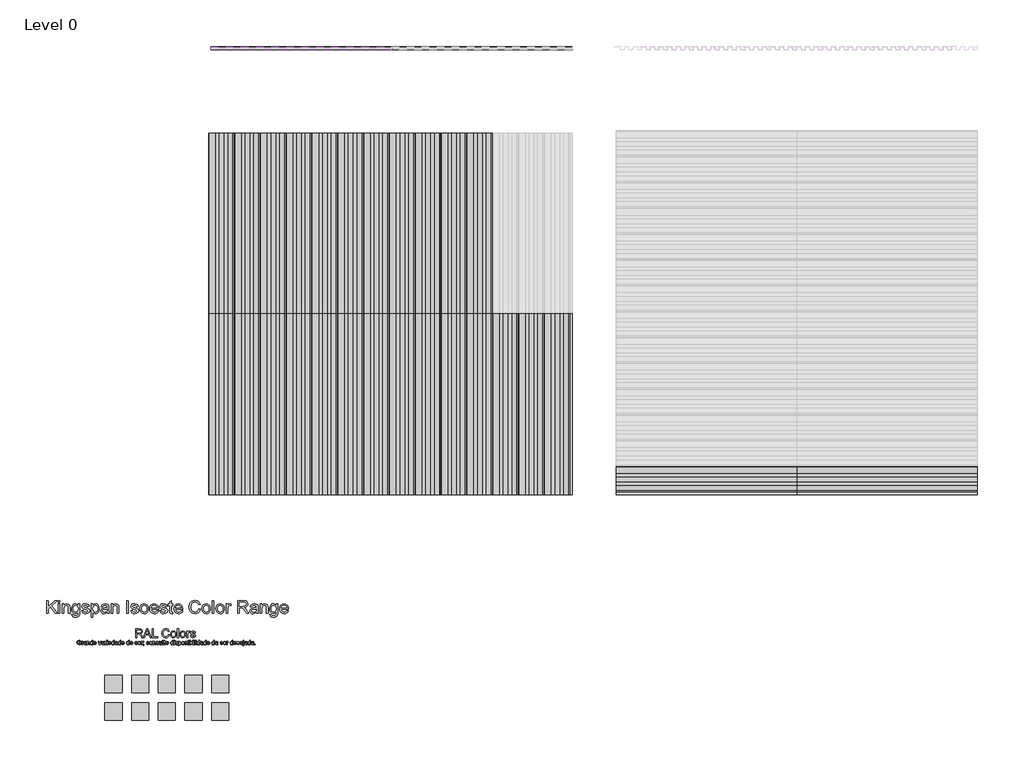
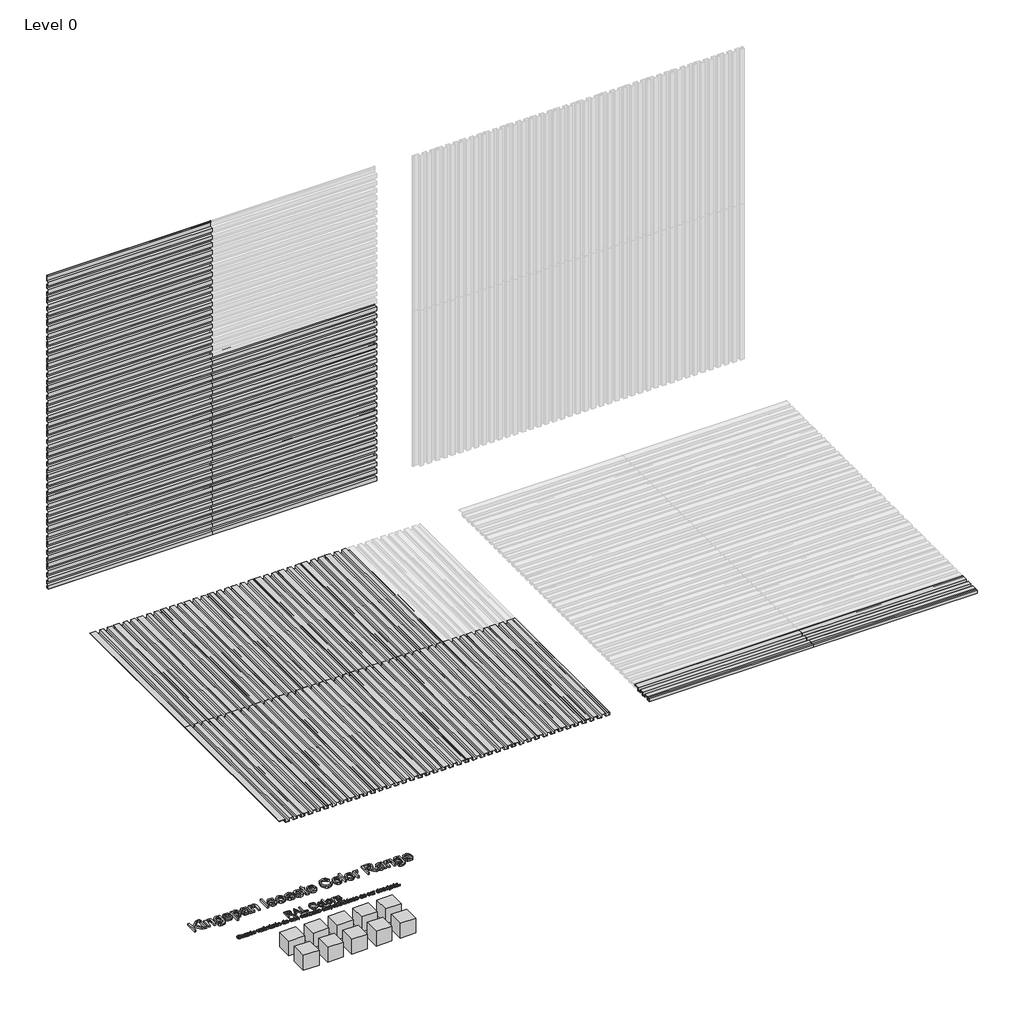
# One storey, part 1 of 2: 60 proxies.
"""IFC4 building model written with IfcOpenShell, lengths in millimetres."""

from ifc_helpers import new_model, si_unit, origin, place, context, project, spatial, transform, mapped, element, save
from components import proxy_32_ks_iso_colour_range_8220f766, proxy_32_ks_iso_colour_range_06d69407, ks_colour_sample_ks_colour_sample_0243efec, mx1_0_standard_panel_ns_afae810e, mx1_0_standard_panel_ns_dc5b759f

model = new_model("IFC4")

# Units and contexts
model_context = context("Model", 3, world=origin())
ifc_project = project(units=[si_unit("LENGTHUNIT", "METRE", prefix="MILLI")], contexts=[model_context])

# Site, building, storey
site = spatial("IfcSite", under=ifc_project)
building = spatial("IfcBuilding", under=site)
storey = spatial("IfcBuildingStorey", under=building, Name="Level 0", Elevation=0.0)

# Proxies
placement = place(None, origin())
proxy_32_ks_iso_colour_range_shape = proxy_32_ks_iso_colour_range_8220f766(model_context)
proxy_32_ks_iso_colour_range_2_shape = proxy_32_ks_iso_colour_range_06d69407(model_context)
element("IfcBuildingElementProxy", 1, Name="32-KS-ISO-Colour Range : Kingspan Isoeste Color Range", ObjectType="32-KS-ISO-Colour Range : Kingspan Isoeste Color Range", at=placement, inside=storey, context=model_context, shape_type="MappedRepresentation", body=[
    mapped(proxy_32_ks_iso_colour_range_shape, transform((-3929.8390717, -2223.0925896, 0.0), x_axis=(1.0, 0.0, 0.0), y_axis=(0.0, 1.0, 0.0), z_axis=(0.0, 0.0, 1.0))),
    mapped(proxy_32_ks_iso_colour_range_2_shape, transform((-3929.8390717, -2223.0925896, 0.0), x_axis=(1.0, 0.0, 0.0), y_axis=(0.0, 1.0, 0.0), z_axis=(0.0, 0.0, 1.0))),
])
ks_colour_sample_ks_colour_sample_shape = ks_colour_sample_ks_colour_sample_0243efec(model_context)
element("IfcBuildingElementProxy", 2, Name="KS_Colour Sample : KS_Colour Sample", ObjectType="KS_Colour Sample : KS_Colour Sample", at=placement, inside=storey, context=model_context, shape_type="MappedRepresentation", body=[
    mapped(ks_colour_sample_ks_colour_sample_shape, transform((-3309.8390717, -2663.0925896, 0.0), x_axis=(1.0, 0.0, 0.0), y_axis=(0.0, 1.0, 0.0), z_axis=(0.0, 0.0, 1.0))),
])
element("IfcBuildingElementProxy", 3, Name="KS_Colour Sample : KS_Colour Sample", ObjectType="KS_Colour Sample : KS_Colour Sample", at=placement, inside=storey, context=model_context, shape_type="MappedRepresentation", body=[
    mapped(ks_colour_sample_ks_colour_sample_shape, transform((-3309.8390717, -2343.0925896, 0.0), x_axis=(1.0, 0.0, 0.0), y_axis=(0.0, 1.0, 0.0), z_axis=(0.0, 0.0, 1.0))),
])
element("IfcBuildingElementProxy", 4, Name="KS_Colour Sample : KS_Colour Sample", ObjectType="KS_Colour Sample : KS_Colour Sample", at=placement, inside=storey, context=model_context, shape_type="MappedRepresentation", body=[
    mapped(ks_colour_sample_ks_colour_sample_shape, transform((-4549.8390717, -2663.0925896, 0.0), x_axis=(1.0, 0.0, 0.0), y_axis=(0.0, 1.0, 0.0), z_axis=(0.0, 0.0, 1.0))),
])
element("IfcBuildingElementProxy", 5, Name="KS_Colour Sample : KS_Colour Sample", ObjectType="KS_Colour Sample : KS_Colour Sample", at=placement, inside=storey, context=model_context, shape_type="MappedRepresentation", body=[
    mapped(ks_colour_sample_ks_colour_sample_shape, transform((-4239.8390717, -2663.0925896, 0.0), x_axis=(1.0, 0.0, 0.0), y_axis=(0.0, 1.0, 0.0), z_axis=(0.0, 0.0, 1.0))),
])
element("IfcBuildingElementProxy", 6, Name="KS_Colour Sample : KS_Colour Sample", ObjectType="KS_Colour Sample : KS_Colour Sample", at=placement, inside=storey, context=model_context, shape_type="MappedRepresentation", body=[
    mapped(ks_colour_sample_ks_colour_sample_shape, transform((-3619.8390717, -2663.0925896, 0.0), x_axis=(1.0, 0.0, 0.0), y_axis=(0.0, 1.0, 0.0), z_axis=(0.0, 0.0, 1.0))),
])
element("IfcBuildingElementProxy", 7, Name="KS_Colour Sample : KS_Colour Sample", ObjectType="KS_Colour Sample : KS_Colour Sample", at=placement, inside=storey, context=model_context, shape_type="MappedRepresentation", body=[
    mapped(ks_colour_sample_ks_colour_sample_shape, transform((-4549.8390717, -2343.0925896, 0.0), x_axis=(1.0, 0.0, 0.0), y_axis=(0.0, 1.0, 0.0), z_axis=(0.0, 0.0, 1.0))),
])
element("IfcBuildingElementProxy", 8, Name="KS_Colour Sample : KS_Colour Sample", ObjectType="KS_Colour Sample : KS_Colour Sample", at=placement, inside=storey, context=model_context, shape_type="MappedRepresentation", body=[
    mapped(ks_colour_sample_ks_colour_sample_shape, transform((-4239.8390717, -2343.0925896, 0.0), x_axis=(1.0, 0.0, 0.0), y_axis=(0.0, 1.0, 0.0), z_axis=(0.0, 0.0, 1.0))),
])
element("IfcBuildingElementProxy", 9, Name="KS_Colour Sample : KS_Colour Sample", ObjectType="KS_Colour Sample : KS_Colour Sample", at=placement, inside=storey, context=model_context, shape_type="MappedRepresentation", body=[
    mapped(ks_colour_sample_ks_colour_sample_shape, transform((-3619.8390717, -2343.0925896, 0.0), x_axis=(1.0, 0.0, 0.0), y_axis=(0.0, 1.0, 0.0), z_axis=(0.0, 0.0, 1.0))),
])
element("IfcBuildingElementProxy", 10, Name="KS_Colour Sample : KS_Colour Sample", ObjectType="KS_Colour Sample : KS_Colour Sample", at=placement, inside=storey, context=model_context, shape_type="MappedRepresentation", body=[
    mapped(ks_colour_sample_ks_colour_sample_shape, transform((-3929.8390717, -2343.0925896, 0.0), x_axis=(1.0, 0.0, 0.0), y_axis=(0.0, 1.0, 0.0), z_axis=(0.0, 0.0, 1.0))),
])
element("IfcBuildingElementProxy", 11, Name="KS_Colour Sample : KS_Colour Sample", ObjectType="KS_Colour Sample : KS_Colour Sample", at=placement, inside=storey, context=model_context, shape_type="MappedRepresentation", body=[
    mapped(ks_colour_sample_ks_colour_sample_shape, transform((-3929.8390717, -2663.0925896, 0.0), x_axis=(1.0, 0.0, 0.0), y_axis=(0.0, 1.0, 0.0), z_axis=(0.0, 0.0, 1.0))),
])
mx1_0_standard_panel_ns_shape = mx1_0_standard_panel_ns_afae810e(model_context)
element("IfcBuildingElementProxy", 12, Name="MX1.0 : Standard Panel_NS", ObjectType="MX1.0 : Standard Panel_NS", at=placement, inside=storey, context=model_context, shape_type="MappedRepresentation", body=[
    mapped(mx1_0_standard_panel_ns_shape, transform((-3417.7637295, 5063.0274074, 0.0), x_axis=(1.0, 0.0, 0.0), y_axis=(0.0, 0.0, 1.0), z_axis=(0.0, -1.0, 0.0))),
])
element("IfcBuildingElementProxy", 13, Name="MX1.0 : Standard Panel_NS", ObjectType="MX1.0 : Standard Panel_NS", at=placement, inside=storey, context=model_context, shape_type="MappedRepresentation", body=[
    mapped(mx1_0_standard_panel_ns_shape, transform((-3417.7637295, 5063.0274074, 2400.0), x_axis=(1.0, 0.0, 0.0), y_axis=(0.0, 0.0, 1.0), z_axis=(0.0, -1.0, 0.0))),
])
element("IfcBuildingElementProxy", 14, Name="MX1.0 : Standard Panel_NS", ObjectType="MX1.0 : Standard Panel_NS", at=placement, inside=storey, context=model_context, shape_type="MappedRepresentation", body=[
    mapped(mx1_0_standard_panel_ns_shape, transform((-1317.7637295, 5063.0274074, 0.0), x_axis=(1.0, 0.0, 0.0), y_axis=(0.0, 0.0, 1.0), z_axis=(0.0, -1.0, 0.0))),
])
mx1_0_standard_panel_ns_2_shape = mx1_0_standard_panel_ns_dc5b759f(model_context)
element("IfcBuildingElementProxy", 15, Name="MX1.0 : Standard Panel_NS", ObjectType="MX1.0 : Standard Panel_NS", at=placement, inside=storey, context=model_context, shape_type="MappedRepresentation", body=[
    mapped(mx1_0_standard_panel_ns_2_shape, transform((-1617.7637297, -141.6886547, 0.0), x_axis=(0.0, 1.0, 0.0), y_axis=(-1.0, 0.0, 0.0), z_axis=(0.0, 0.0, 1.0))),
])
element("IfcBuildingElementProxy", 16, Name="MX1.0 : Standard Panel_NS", ObjectType="MX1.0 : Standard Panel_NS", at=placement, inside=storey, context=model_context, shape_type="MappedRepresentation", body=[
    mapped(mx1_0_standard_panel_ns_2_shape, transform((1289.7088668, -141.6886547, 0.0), x_axis=(1.0, 0.0, 0.0), y_axis=(0.0, 1.0, 0.0), z_axis=(0.0, 0.0, 1.0))),
])
element("IfcBuildingElementProxy", 17, Name="MX1.0 : Standard Panel_NS", ObjectType="MX1.0 : Standard Panel_NS", at=placement, inside=storey, context=model_context, shape_type="MappedRepresentation", body=[
    mapped(mx1_0_standard_panel_ns_2_shape, transform((-1617.7637297, 1958.3113453, 0.0), x_axis=(0.0, 1.0, 0.0), y_axis=(-1.0, 0.0, 0.0), z_axis=(0.0, 0.0, 1.0))),
])
element("IfcBuildingElementProxy", 18, Name="MX1.0 : Standard Panel_NS", ObjectType="MX1.0 : Standard Panel_NS", at=placement, inside=storey, context=model_context, shape_type="MappedRepresentation", body=[
    mapped(mx1_0_standard_panel_ns_2_shape, transform((3389.7088668, -141.6886547, 0.0), x_axis=(1.0, 0.0, 0.0), y_axis=(0.0, 1.0, 0.0), z_axis=(0.0, 0.0, 1.0))),
])
element("IfcBuildingElementProxy", 19, Name="MX1.0 : Standard Panel_NS", ObjectType="MX1.0 : Standard Panel_NS", at=placement, inside=storey, context=model_context, shape_type="MappedRepresentation", body=[
    mapped(mx1_0_standard_panel_ns_2_shape, transform((782.2362705, -141.6886547, 0.0), x_axis=(0.0, 1.0, 0.0), y_axis=(-1.0, 0.0, 0.0), z_axis=(0.0, 0.0, 1.0))),
])
element("IfcBuildingElementProxy", 20, Name="MX1.0 : Standard Panel_NS", ObjectType="MX1.0 : Standard Panel_NS", at=placement, inside=storey, context=model_context, shape_type="MappedRepresentation", body=[
    mapped(mx1_0_standard_panel_ns_shape, transform((-3417.7637295, 5063.0274074, 1500.0), x_axis=(1.0, 0.0, 0.0), y_axis=(0.0, 0.0, 1.0), z_axis=(0.0, -1.0, 0.0))),
])
element("IfcBuildingElementProxy", 21, Name="MX1.0 : Standard Panel_NS", ObjectType="MX1.0 : Standard Panel_NS", at=placement, inside=storey, context=model_context, shape_type="MappedRepresentation", body=[
    mapped(mx1_0_standard_panel_ns_shape, transform((-3417.7637295, 5063.0274074, 3900.0), x_axis=(1.0, 0.0, 0.0), y_axis=(0.0, 0.0, 1.0), z_axis=(0.0, -1.0, 0.0))),
])
element("IfcBuildingElementProxy", 22, Name="MX1.0 : Standard Panel_NS", ObjectType="MX1.0 : Standard Panel_NS", at=placement, inside=storey, context=model_context, shape_type="MappedRepresentation", body=[
    mapped(mx1_0_standard_panel_ns_shape, transform((-1317.7637295, 5063.0274074, 1500.0), x_axis=(1.0, 0.0, 0.0), y_axis=(0.0, 0.0, 1.0), z_axis=(0.0, -1.0, 0.0))),
])
element("IfcBuildingElementProxy", 23, Name="MX1.0 : Standard Panel_NS", ObjectType="MX1.0 : Standard Panel_NS", at=placement, inside=storey, context=model_context, shape_type="MappedRepresentation", body=[
    mapped(mx1_0_standard_panel_ns_shape, transform((-3417.7637295, 5063.0274074, 300.0), x_axis=(1.0, 0.0, 0.0), y_axis=(0.0, 0.0, 1.0), z_axis=(0.0, -1.0, 0.0))),
])
element("IfcBuildingElementProxy", 24, Name="MX1.0 : Standard Panel_NS", ObjectType="MX1.0 : Standard Panel_NS", at=placement, inside=storey, context=model_context, shape_type="MappedRepresentation", body=[
    mapped(mx1_0_standard_panel_ns_shape, transform((-3417.7637295, 5063.0274074, 2700.0), x_axis=(1.0, 0.0, 0.0), y_axis=(0.0, 0.0, 1.0), z_axis=(0.0, -1.0, 0.0))),
])
element("IfcBuildingElementProxy", 25, Name="MX1.0 : Standard Panel_NS", ObjectType="MX1.0 : Standard Panel_NS", at=placement, inside=storey, context=model_context, shape_type="MappedRepresentation", body=[
    mapped(mx1_0_standard_panel_ns_shape, transform((-1317.7637295, 5063.0274074, 300.0), x_axis=(1.0, 0.0, 0.0), y_axis=(0.0, 0.0, 1.0), z_axis=(0.0, -1.0, 0.0))),
])
element("IfcBuildingElementProxy", 26, Name="MX1.0 : Standard Panel_NS", ObjectType="MX1.0 : Standard Panel_NS", at=placement, inside=storey, context=model_context, shape_type="MappedRepresentation", body=[
    mapped(mx1_0_standard_panel_ns_shape, transform((-3417.7637295, 5063.0274074, 600.0), x_axis=(1.0, 0.0, 0.0), y_axis=(0.0, 0.0, 1.0), z_axis=(0.0, -1.0, 0.0))),
])
element("IfcBuildingElementProxy", 27, Name="MX1.0 : Standard Panel_NS", ObjectType="MX1.0 : Standard Panel_NS", at=placement, inside=storey, context=model_context, shape_type="MappedRepresentation", body=[
    mapped(mx1_0_standard_panel_ns_shape, transform((-3417.7637295, 5063.0274074, 3000.0), x_axis=(1.0, 0.0, 0.0), y_axis=(0.0, 0.0, 1.0), z_axis=(0.0, -1.0, 0.0))),
])
element("IfcBuildingElementProxy", 28, Name="MX1.0 : Standard Panel_NS", ObjectType="MX1.0 : Standard Panel_NS", at=placement, inside=storey, context=model_context, shape_type="MappedRepresentation", body=[
    mapped(mx1_0_standard_panel_ns_shape, transform((-1317.7637295, 5063.0274074, 600.0), x_axis=(1.0, 0.0, 0.0), y_axis=(0.0, 0.0, 1.0), z_axis=(0.0, -1.0, 0.0))),
])
element("IfcBuildingElementProxy", 29, Name="MX1.0 : Standard Panel_NS", ObjectType="MX1.0 : Standard Panel_NS", at=placement, inside=storey, context=model_context, shape_type="MappedRepresentation", body=[
    mapped(mx1_0_standard_panel_ns_shape, transform((-3417.7637295, 5063.0274074, 900.0), x_axis=(1.0, 0.0, 0.0), y_axis=(0.0, 0.0, 1.0), z_axis=(0.0, -1.0, 0.0))),
])
element("IfcBuildingElementProxy", 30, Name="MX1.0 : Standard Panel_NS", ObjectType="MX1.0 : Standard Panel_NS", at=placement, inside=storey, context=model_context, shape_type="MappedRepresentation", body=[
    mapped(mx1_0_standard_panel_ns_shape, transform((-3417.7637295, 5063.0274074, 3300.0), x_axis=(1.0, 0.0, 0.0), y_axis=(0.0, 0.0, 1.0), z_axis=(0.0, -1.0, 0.0))),
])
element("IfcBuildingElementProxy", 31, Name="MX1.0 : Standard Panel_NS", ObjectType="MX1.0 : Standard Panel_NS", at=placement, inside=storey, context=model_context, shape_type="MappedRepresentation", body=[
    mapped(mx1_0_standard_panel_ns_shape, transform((-1317.7637295, 5063.0274074, 900.0), x_axis=(1.0, 0.0, 0.0), y_axis=(0.0, 0.0, 1.0), z_axis=(0.0, -1.0, 0.0))),
])
element("IfcBuildingElementProxy", 32, Name="MX1.0 : Standard Panel_NS", ObjectType="MX1.0 : Standard Panel_NS", at=placement, inside=storey, context=model_context, shape_type="MappedRepresentation", body=[
    mapped(mx1_0_standard_panel_ns_shape, transform((-3417.7637295, 5063.0274074, 1200.0), x_axis=(1.0, 0.0, 0.0), y_axis=(0.0, 0.0, 1.0), z_axis=(0.0, -1.0, 0.0))),
])
element("IfcBuildingElementProxy", 33, Name="MX1.0 : Standard Panel_NS", ObjectType="MX1.0 : Standard Panel_NS", at=placement, inside=storey, context=model_context, shape_type="MappedRepresentation", body=[
    mapped(mx1_0_standard_panel_ns_shape, transform((-3417.7637295, 5063.0274074, 3600.0), x_axis=(1.0, 0.0, 0.0), y_axis=(0.0, 0.0, 1.0), z_axis=(0.0, -1.0, 0.0))),
])
element("IfcBuildingElementProxy", 34, Name="MX1.0 : Standard Panel_NS", ObjectType="MX1.0 : Standard Panel_NS", at=placement, inside=storey, context=model_context, shape_type="MappedRepresentation", body=[
    mapped(mx1_0_standard_panel_ns_shape, transform((-1317.7637295, 5063.0274074, 1200.0), x_axis=(1.0, 0.0, 0.0), y_axis=(0.0, 0.0, 1.0), z_axis=(0.0, -1.0, 0.0))),
])
element("IfcBuildingElementProxy", 35, Name="MX1.0 : Standard Panel_NS", ObjectType="MX1.0 : Standard Panel_NS", at=placement, inside=storey, context=model_context, shape_type="MappedRepresentation", body=[
    mapped(mx1_0_standard_panel_ns_shape, transform((-3417.7637295, 5063.0274074, 1800.0), x_axis=(1.0, 0.0, 0.0), y_axis=(0.0, 0.0, 1.0), z_axis=(0.0, -1.0, 0.0))),
])
element("IfcBuildingElementProxy", 36, Name="MX1.0 : Standard Panel_NS", ObjectType="MX1.0 : Standard Panel_NS", at=placement, inside=storey, context=model_context, shape_type="MappedRepresentation", body=[
    mapped(mx1_0_standard_panel_ns_shape, transform((-1317.7637295, 5063.0274074, 1800.0), x_axis=(1.0, 0.0, 0.0), y_axis=(0.0, 0.0, 1.0), z_axis=(0.0, -1.0, 0.0))),
])
element("IfcBuildingElementProxy", 37, Name="MX1.0 : Standard Panel_NS", ObjectType="MX1.0 : Standard Panel_NS", at=placement, inside=storey, context=model_context, shape_type="MappedRepresentation", body=[
    mapped(mx1_0_standard_panel_ns_shape, transform((-3417.7637295, 5063.0274074, 2100.0), x_axis=(1.0, 0.0, 0.0), y_axis=(0.0, 0.0, 1.0), z_axis=(0.0, -1.0, 0.0))),
])
element("IfcBuildingElementProxy", 38, Name="MX1.0 : Standard Panel_NS", ObjectType="MX1.0 : Standard Panel_NS", at=placement, inside=storey, context=model_context, shape_type="MappedRepresentation", body=[
    mapped(mx1_0_standard_panel_ns_shape, transform((-1317.7637295, 5063.0274074, 2100.0), x_axis=(1.0, 0.0, 0.0), y_axis=(0.0, 0.0, 1.0), z_axis=(0.0, -1.0, 0.0))),
])
element("IfcBuildingElementProxy", 39, Name="MX1.0 : Standard Panel_NS", ObjectType="MX1.0 : Standard Panel_NS", at=placement, inside=storey, context=model_context, shape_type="MappedRepresentation", body=[
    mapped(mx1_0_standard_panel_ns_2_shape, transform((-3117.7637295, -141.6886547, 0.0), x_axis=(0.0, 1.0, 0.0), y_axis=(-1.0, 0.0, 0.0), z_axis=(0.0, 0.0, 1.0))),
])
element("IfcBuildingElementProxy", 40, Name="MX1.0 : Standard Panel_NS", ObjectType="MX1.0 : Standard Panel_NS", at=placement, inside=storey, context=model_context, shape_type="MappedRepresentation", body=[
    mapped(mx1_0_standard_panel_ns_2_shape, transform((-717.7637297, -141.6886547, 0.0), x_axis=(0.0, 1.0, 0.0), y_axis=(-1.0, 0.0, 0.0), z_axis=(0.0, 0.0, 1.0))),
])
element("IfcBuildingElementProxy", 41, Name="MX1.0 : Standard Panel_NS", ObjectType="MX1.0 : Standard Panel_NS", at=placement, inside=storey, context=model_context, shape_type="MappedRepresentation", body=[
    mapped(mx1_0_standard_panel_ns_2_shape, transform((-3117.7637295, 1958.3113453, 0.0), x_axis=(0.0, 1.0, 0.0), y_axis=(-1.0, 0.0, 0.0), z_axis=(0.0, 0.0, 1.0))),
])
element("IfcBuildingElementProxy", 42, Name="MX1.0 : Standard Panel_NS", ObjectType="MX1.0 : Standard Panel_NS", at=placement, inside=storey, context=model_context, shape_type="MappedRepresentation", body=[
    mapped(mx1_0_standard_panel_ns_2_shape, transform((-717.7637297, 1958.3113453, 0.0), x_axis=(0.0, 1.0, 0.0), y_axis=(-1.0, 0.0, 0.0), z_axis=(0.0, 0.0, 1.0))),
])
element("IfcBuildingElementProxy", 43, Name="MX1.0 : Standard Panel_NS", ObjectType="MX1.0 : Standard Panel_NS", at=placement, inside=storey, context=model_context, shape_type="MappedRepresentation", body=[
    mapped(mx1_0_standard_panel_ns_2_shape, transform((482.2362703, -141.6886547, 0.0), x_axis=(0.0, 1.0, 0.0), y_axis=(-1.0, 0.0, 0.0), z_axis=(0.0, 0.0, 1.0))),
])
element("IfcBuildingElementProxy", 44, Name="MX1.0 : Standard Panel_NS", ObjectType="MX1.0 : Standard Panel_NS", at=placement, inside=storey, context=model_context, shape_type="MappedRepresentation", body=[
    mapped(mx1_0_standard_panel_ns_2_shape, transform((-1917.7637297, -141.6886547, 0.0), x_axis=(0.0, 1.0, 0.0), y_axis=(-1.0, 0.0, 0.0), z_axis=(0.0, 0.0, 1.0))),
])
element("IfcBuildingElementProxy", 45, Name="MX1.0 : Standard Panel_NS", ObjectType="MX1.0 : Standard Panel_NS", at=placement, inside=storey, context=model_context, shape_type="MappedRepresentation", body=[
    mapped(mx1_0_standard_panel_ns_2_shape, transform((-1917.7637297, 1958.3113453, 0.0), x_axis=(0.0, 1.0, 0.0), y_axis=(-1.0, 0.0, 0.0), z_axis=(0.0, 0.0, 1.0))),
])
element("IfcBuildingElementProxy", 46, Name="MX1.0 : Standard Panel_NS", ObjectType="MX1.0 : Standard Panel_NS", at=placement, inside=storey, context=model_context, shape_type="MappedRepresentation", body=[
    mapped(mx1_0_standard_panel_ns_2_shape, transform((182.2362703, -141.6886547, 0.0), x_axis=(0.0, 1.0, 0.0), y_axis=(-1.0, 0.0, 0.0), z_axis=(0.0, 0.0, 1.0))),
])
element("IfcBuildingElementProxy", 47, Name="MX1.0 : Standard Panel_NS", ObjectType="MX1.0 : Standard Panel_NS", at=placement, inside=storey, context=model_context, shape_type="MappedRepresentation", body=[
    mapped(mx1_0_standard_panel_ns_2_shape, transform((-2217.7637297, -141.6886547, 0.0), x_axis=(0.0, 1.0, 0.0), y_axis=(-1.0, 0.0, 0.0), z_axis=(0.0, 0.0, 1.0))),
])
element("IfcBuildingElementProxy", 48, Name="MX1.0 : Standard Panel_NS", ObjectType="MX1.0 : Standard Panel_NS", at=placement, inside=storey, context=model_context, shape_type="MappedRepresentation", body=[
    mapped(mx1_0_standard_panel_ns_2_shape, transform((-2217.7637297, 1958.3113453, 0.0), x_axis=(0.0, 1.0, 0.0), y_axis=(-1.0, 0.0, 0.0), z_axis=(0.0, 0.0, 1.0))),
])
element("IfcBuildingElementProxy", 49, Name="MX1.0 : Standard Panel_NS", ObjectType="MX1.0 : Standard Panel_NS", at=placement, inside=storey, context=model_context, shape_type="MappedRepresentation", body=[
    mapped(mx1_0_standard_panel_ns_2_shape, transform((-117.7637297, -141.6886547, 0.0), x_axis=(0.0, 1.0, 0.0), y_axis=(-1.0, 0.0, 0.0), z_axis=(0.0, 0.0, 1.0))),
])
element("IfcBuildingElementProxy", 50, Name="MX1.0 : Standard Panel_NS", ObjectType="MX1.0 : Standard Panel_NS", at=placement, inside=storey, context=model_context, shape_type="MappedRepresentation", body=[
    mapped(mx1_0_standard_panel_ns_2_shape, transform((-2517.7637297, -141.6886547, 0.0), x_axis=(0.0, 1.0, 0.0), y_axis=(-1.0, 0.0, 0.0), z_axis=(0.0, 0.0, 1.0))),
])
element("IfcBuildingElementProxy", 51, Name="MX1.0 : Standard Panel_NS", ObjectType="MX1.0 : Standard Panel_NS", at=placement, inside=storey, context=model_context, shape_type="MappedRepresentation", body=[
    mapped(mx1_0_standard_panel_ns_2_shape, transform((-2517.7637297, 1958.3113453, 0.0), x_axis=(0.0, 1.0, 0.0), y_axis=(-1.0, 0.0, 0.0), z_axis=(0.0, 0.0, 1.0))),
])
element("IfcBuildingElementProxy", 52, Name="MX1.0 : Standard Panel_NS", ObjectType="MX1.0 : Standard Panel_NS", at=placement, inside=storey, context=model_context, shape_type="MappedRepresentation", body=[
    mapped(mx1_0_standard_panel_ns_2_shape, transform((-117.7637297, 1958.3113453, 0.0), x_axis=(0.0, 1.0, 0.0), y_axis=(-1.0, 0.0, 0.0), z_axis=(0.0, 0.0, 1.0))),
])
element("IfcBuildingElementProxy", 53, Name="MX1.0 : Standard Panel_NS", ObjectType="MX1.0 : Standard Panel_NS", at=placement, inside=storey, context=model_context, shape_type="MappedRepresentation", body=[
    mapped(mx1_0_standard_panel_ns_2_shape, transform((-417.7637297, -141.6886547, 0.0), x_axis=(0.0, 1.0, 0.0), y_axis=(-1.0, 0.0, 0.0), z_axis=(0.0, 0.0, 1.0))),
])
element("IfcBuildingElementProxy", 54, Name="MX1.0 : Standard Panel_NS", ObjectType="MX1.0 : Standard Panel_NS", at=placement, inside=storey, context=model_context, shape_type="MappedRepresentation", body=[
    mapped(mx1_0_standard_panel_ns_2_shape, transform((-2817.7637297, -141.6886547, 0.0), x_axis=(0.0, 1.0, 0.0), y_axis=(-1.0, 0.0, 0.0), z_axis=(0.0, 0.0, 1.0))),
])
element("IfcBuildingElementProxy", 55, Name="MX1.0 : Standard Panel_NS", ObjectType="MX1.0 : Standard Panel_NS", at=placement, inside=storey, context=model_context, shape_type="MappedRepresentation", body=[
    mapped(mx1_0_standard_panel_ns_2_shape, transform((-2817.7637297, 1958.3113453, 0.0), x_axis=(0.0, 1.0, 0.0), y_axis=(-1.0, 0.0, 0.0), z_axis=(0.0, 0.0, 1.0))),
])
element("IfcBuildingElementProxy", 56, Name="MX1.0 : Standard Panel_NS", ObjectType="MX1.0 : Standard Panel_NS", at=placement, inside=storey, context=model_context, shape_type="MappedRepresentation", body=[
    mapped(mx1_0_standard_panel_ns_2_shape, transform((-417.7637297, 1958.3113453, 0.0), x_axis=(0.0, 1.0, 0.0), y_axis=(-1.0, 0.0, 0.0), z_axis=(0.0, 0.0, 1.0))),
])
element("IfcBuildingElementProxy", 57, Name="MX1.0 : Standard Panel_NS", ObjectType="MX1.0 : Standard Panel_NS", at=placement, inside=storey, context=model_context, shape_type="MappedRepresentation", body=[
    mapped(mx1_0_standard_panel_ns_2_shape, transform((-1017.7637297, -141.6886547, 0.0), x_axis=(0.0, 1.0, 0.0), y_axis=(-1.0, 0.0, 0.0), z_axis=(0.0, 0.0, 1.0))),
])
element("IfcBuildingElementProxy", 58, Name="MX1.0 : Standard Panel_NS", ObjectType="MX1.0 : Standard Panel_NS", at=placement, inside=storey, context=model_context, shape_type="MappedRepresentation", body=[
    mapped(mx1_0_standard_panel_ns_2_shape, transform((-1017.7637297, 1958.3113453, 0.0), x_axis=(0.0, 1.0, 0.0), y_axis=(-1.0, 0.0, 0.0), z_axis=(0.0, 0.0, 1.0))),
])
element("IfcBuildingElementProxy", 59, Name="MX1.0 : Standard Panel_NS", ObjectType="MX1.0 : Standard Panel_NS", at=placement, inside=storey, context=model_context, shape_type="MappedRepresentation", body=[
    mapped(mx1_0_standard_panel_ns_2_shape, transform((-1317.7637297, -141.6886547, 0.0), x_axis=(0.0, 1.0, 0.0), y_axis=(-1.0, 0.0, 0.0), z_axis=(0.0, 0.0, 1.0))),
])
element("IfcBuildingElementProxy", 60, Name="MX1.0 : Standard Panel_NS", ObjectType="MX1.0 : Standard Panel_NS", at=placement, inside=storey, context=model_context, shape_type="MappedRepresentation", body=[
    mapped(mx1_0_standard_panel_ns_2_shape, transform((-1317.7637297, 1958.3113453, 0.0), x_axis=(0.0, 1.0, 0.0), y_axis=(-1.0, 0.0, 0.0), z_axis=(0.0, 0.0, 1.0))),
])

save(model, "model.ifc")
